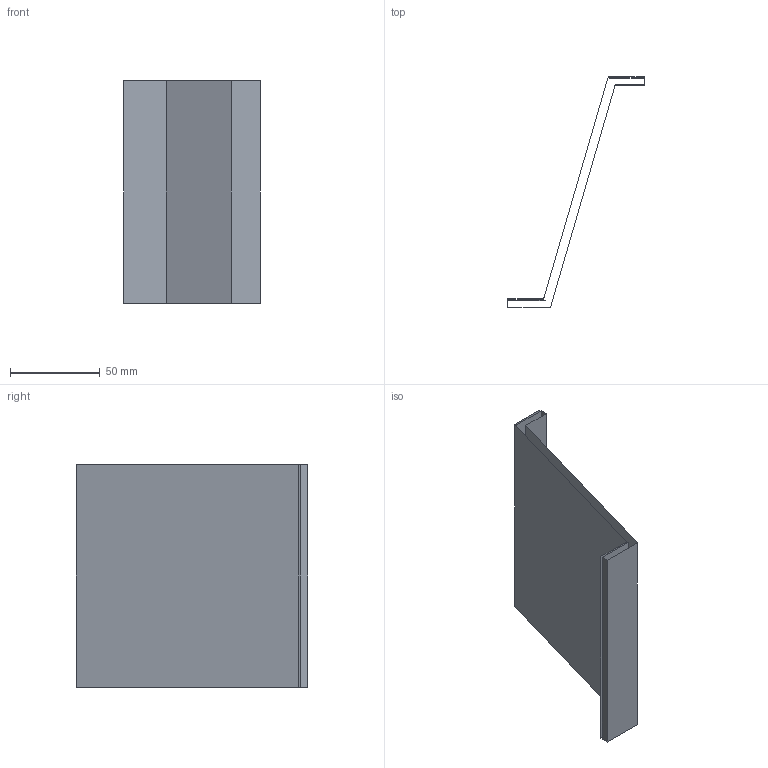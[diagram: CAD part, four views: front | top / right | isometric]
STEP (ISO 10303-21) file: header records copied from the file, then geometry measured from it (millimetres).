
FILE_DESCRIPTION(('CATIA V5 STEP Exchange'),'2;1');
FILE_NAME('C:\_Andres\UNIVERSIDAD\IQS\ASIGNATURAS\DAO\EXF\EXF-16172c\2inicio\Puig_Bataller_Ej06_v24.stp','2017-03-05T21:01:27+00:00',('none'),('none'),'CATIA Version 5-6 Release 2014 SP1 HF18','CATIA V5 STEP AP203','none');
FILE_SCHEMA(('CONFIG_CONTROL_DESIGN'));
Length unit declared in the file: millimetre
Products named in the file (1): Puig_Bataller_Ej06_v24
Bounding box: 76 x 129 x 124 mm (x, y, z)
Surface area: 47893.8 mm2 (no closed solid volume)
Topology: 0 solids, 2 shells, 10 faces, 42 edges, 36 vertices
Faces by surface type: plane 10
Entity records: 461 total; most frequent: CARTESIAN_POINT 100, DIRECTION 59, ORIENTED_EDGE 40, VECTOR 39, LINE 39, EDGE_CURVE 32, VERTEX_POINT 24, AXIS2_PLACEMENT_3D 11
